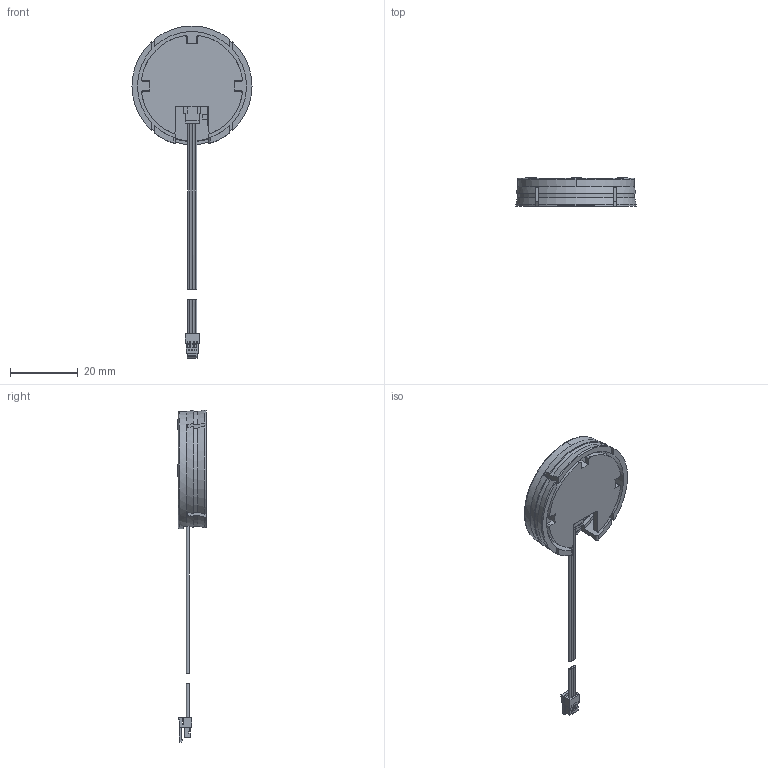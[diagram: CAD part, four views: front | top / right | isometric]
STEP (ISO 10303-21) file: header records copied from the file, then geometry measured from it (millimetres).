
FILE_DESCRIPTION (( 'STEP AP203' ), '1' );
FILE_NAME ('MultiSwitch_MagicSwitch_35mm_24.STEP', '2024-12-03T04:53:35', ( '' ), ( '' ), 'SwSTEP 2.0', 'SolidWorks 2023', '' );
FILE_SCHEMA (( 'CONFIG_CONTROL_DESIGN' ));
Length unit declared in the file: millimetre
Products named in the file (8): 3944001_Standard - kurz; Sensorplatine; 1966402_P03339_Sensorgehäuse für 35mm Magnetschalter_Schweißpunkte; MultiSwitch_MagicSwitch_35mm_24; Stecker_A1005-HA3P_kurz; Buchse_A1005-WAR-S-3P_Anschlüsse; Stecker_A1005-HA3P_lang; Sensorplatine_ohne Buchse
Assembly tree (7 placements, depth 3):
  MultiSwitch_MagicSwitch_35mm_24
    1966402_P03339_Sensorgehäuse für 35mm Magnetschalter_Schweißpunkte
    Sensorplatine
      Sensorplatine_ohne Buchse
      Buchse_A1005-WAR-S-3P_Anschlüsse
    3944001_Standard - kurz
      Stecker_A1005-HA3P_kurz
      Stecker_A1005-HA3P_lang
Bounding box: 35.4 x 8.31 x 97.8 mm (x, y, z)
Volume: 3478.3 mm3; surface area: 6600.6 mm2
Topology: 6 solids, 6 shells, 766 faces, 2119 edges, 1404 vertices
Faces by surface type: plane 529, bspline 120, cylinder 109, cone 6, torus 2
Entity records: 31330 total; most frequent: CARTESIAN_POINT 11517, ORIENTED_EDGE 4238, DIRECTION 3418, EDGE_CURVE 2119, VECTOR 1600, LINE 1600, VERTEX_POINT 1404, AXIS2_PLACEMENT_3D 909
